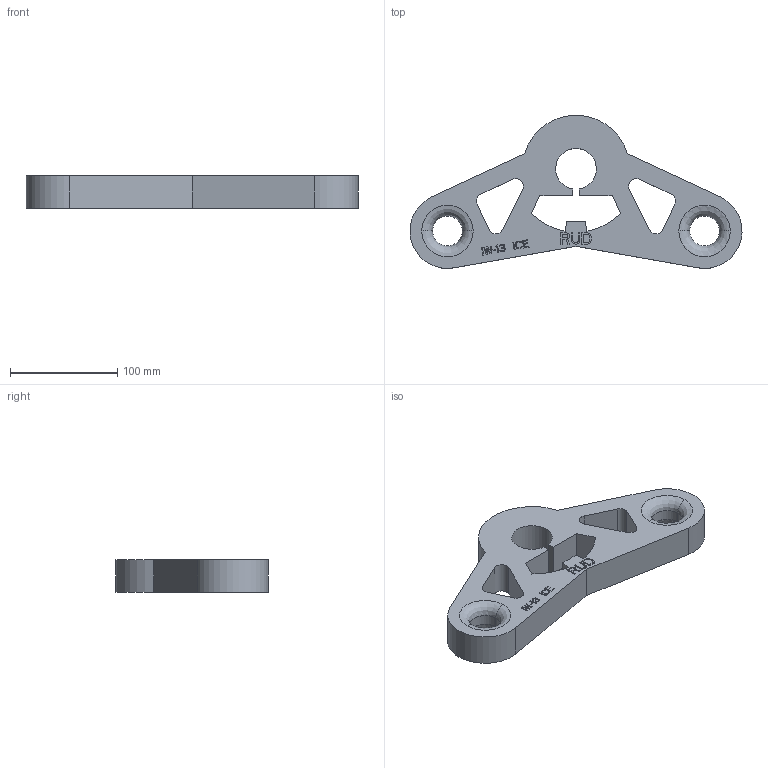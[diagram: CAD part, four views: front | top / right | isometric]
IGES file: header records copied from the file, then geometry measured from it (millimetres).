
Start section:  PTC IGES file: 001-m34797-p-2.igs
Global section: file name: 001-m34797-p-2.igs; native system: Pro/ENGINEER by Parametric Technology Corporation; preprocessor: 2011490; author: anja.joas; organization: Unknown; date: 20190124.082608; units: millimetre
Bounding box: 309.91 x 142.82 x 30 mm (x, y, z)
Volume: 598285.6 mm3; surface area: 85909.6 mm2
Topology: 1 solids, 1 shells, 277 faces, 778 edges, 516 vertices
Faces by surface type: bspline 252, revolution 25
